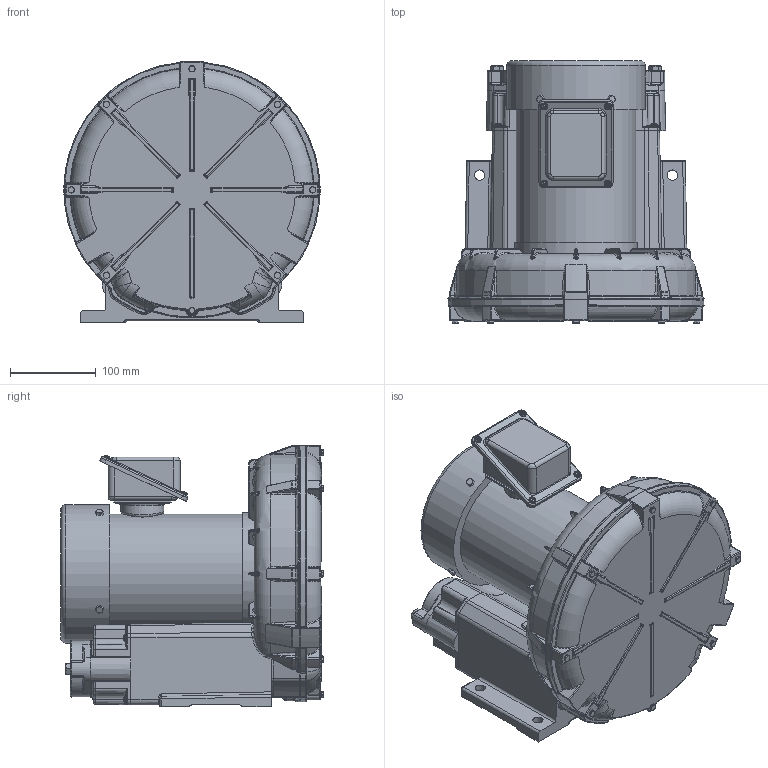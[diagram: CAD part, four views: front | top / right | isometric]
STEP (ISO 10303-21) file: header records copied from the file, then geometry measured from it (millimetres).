
FILE_DESCRIPTION(/* description */ (''),/* implementation_level */ '2;1');
FILE_NAME(/* name */ 'Z:\90_設計課\開發\鼓風機UL化\04-図面\RB 3D圖需求\VFZ401A-7W.stp',/* time_stamp */ '2016-12-27T11:54:00+08:00',/* author */ ('daniel'),/* organization */ (''),/* preprocessor_version */ 'ST-DEVELOPER v16.1',/* originating_system */ 'Autodesk Inventor 2016',/* authorisation */ '');
FILE_SCHEMA (('AUTOMOTIVE_DESIGN { 1 0 10303 214 3 1 1 }'));
Length unit declared in the file: millimetre
Products named in the file (1): VFZ401A-7W
Bounding box: 298.87 x 305.9 x 304.94 mm (x, y, z)
Volume: 12262164.1 mm3; surface area: 537472.2 mm2
Topology: 2 solids, 2 shells, 2719 faces, 6496 edges, 3719 vertices
Faces by surface type: bspline 841, plane 539, cylinder 506, torus 409, cone 313, sphere 111
Full cylindrical faces by diameter (mm): 5.88 x8, 7.4 x4, 22 x1, 44.845 x2, 50 x1, 139.6 x1, 143 x1, 161.5 x1, 294 x1
Entity records: 111585 total; most frequent: CARTESIAN_POINT 52582, ORIENTED_EDGE 12606, DIRECTION 10864, EDGE_CURVE 6294, AXIS2_PLACEMENT_3D 4675, VERTEX_POINT 3702, EDGE_LOOP 2851, FACE_OUTER_BOUND 2719
